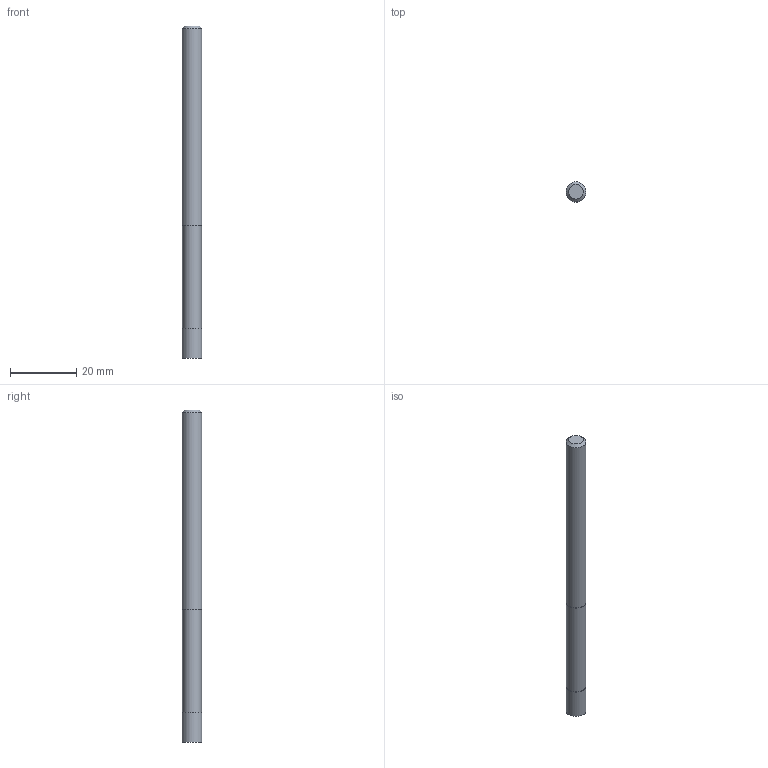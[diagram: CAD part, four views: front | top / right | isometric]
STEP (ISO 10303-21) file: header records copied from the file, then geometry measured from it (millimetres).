
FILE_DESCRIPTION((''),'2;1');
FILE_NAME('C:\Users\nsx150\AppData\Local\Temp\Mastercam 2021\17T8Q8S9EB\TEMP.step','2021-04-21T16:16:37',(''),(''),'STEP Write','Mastercam 2021 ... CNC Software, Inc.','');
FILE_SCHEMA(('AUTOMOTIVE_DESIGN'));
Length unit declared in the file: millimetre
Products named in the file (1): None
Bounding box: 6 x 6 x 100 mm (x, y, z)
Volume: 2764.5 mm3; surface area: 1968.9 mm2
Topology: 2 solids, 2 shells, 9 faces, 11 edges, 7 vertices
Faces by surface type: plane 5, cylinder 3, cone 1
Full cylindrical faces by diameter (mm): 5.8 x1, 6 x2
Entity records: 211 total; most frequent: DIRECTION 36, CARTESIAN_POINT 25, AXIS2_PLACEMENT_3D 18, ORIENTED_EDGE 14, EDGE_LOOP 14, STYLED_ITEM 12, ADVANCED_FACE 9, FACE_BOUND 8
